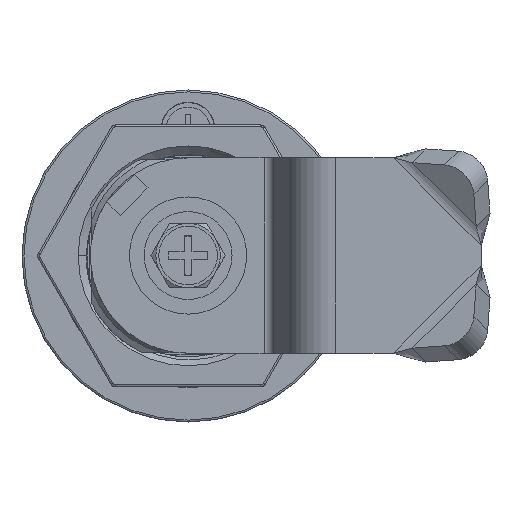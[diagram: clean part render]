
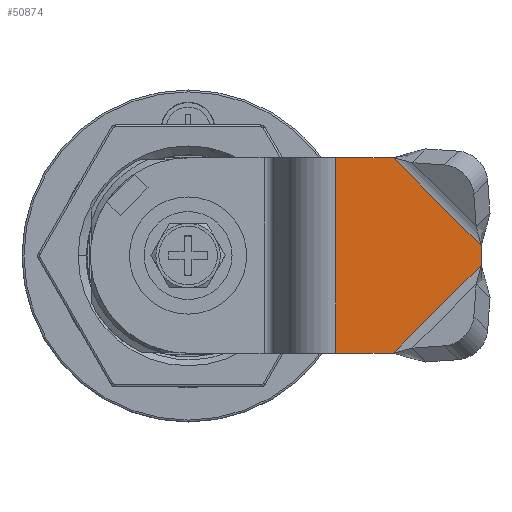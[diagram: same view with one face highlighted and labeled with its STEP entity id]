
A CAD part, top view. The second image highlights one B-rep face of the part: STEP entity #50874.
In plain terms, the highlighted planar face has unit normal (0, 0, 1) as drawn and (0, 1, 0) by its records, which use the part's own axes.
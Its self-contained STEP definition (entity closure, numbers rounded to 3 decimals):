
#50056=DIRECTION('',(-1.,0.,0.));
#50057=VECTOR('',#50056,5.896);
#50058=CARTESIAN_POINT('',(12.5,13.,10.));
#50059=LINE('',#50058,#50057);
#50105=DIRECTION('',(-0.707,0.,0.707));
#50106=VECTOR('',#50105,12.728);
#50107=CARTESIAN_POINT('',(21.5,13.,1.));
#50108=LINE('',#50107,#50106);
#50109=DIRECTION('',(0.,0.,-1.));
#50110=VECTOR('',#50109,20.);
#50111=CARTESIAN_POINT('',(6.604,13.,10.));
#50112=LINE('',#50111,#50110);
#50113=DIRECTION('',(-0.707,0.,-0.707));
#50114=VECTOR('',#50113,12.728);
#50115=CARTESIAN_POINT('',(21.5,13.,-1.));
#50116=LINE('',#50115,#50114);
#50117=DIRECTION('',(0.,0.,1.));
#50118=VECTOR('',#50117,2.);
#50119=CARTESIAN_POINT('',(21.5,13.,-1.));
#50120=LINE('',#50119,#50118);
#50125=DIRECTION('',(-1.,0.,0.));
#50126=VECTOR('',#50125,5.896);
#50127=CARTESIAN_POINT('',(12.5,13.,-10.));
#50128=LINE('',#50127,#50126);
#50314=CARTESIAN_POINT('',(6.604,13.,10.));
#50315=CARTESIAN_POINT('',(6.604,13.,-10.));
#50316=VERTEX_POINT('',#50314);
#50317=VERTEX_POINT('',#50315);
#50354=CARTESIAN_POINT('',(12.5,13.,-10.));
#50355=VERTEX_POINT('',#50354);
#50363=CARTESIAN_POINT('',(21.5,13.,-1.));
#50364=VERTEX_POINT('',#50363);
#50369=CARTESIAN_POINT('',(12.5,13.,10.));
#50370=VERTEX_POINT('',#50369);
#50373=CARTESIAN_POINT('',(21.5,13.,1.));
#50374=VERTEX_POINT('',#50373);
#50858=CARTESIAN_POINT('',(21.5,13.,-10.));
#50859=DIRECTION('',(0.,1.,0.));
#50860=DIRECTION('',(-1.,0.,0.));
#50861=AXIS2_PLACEMENT_3D('',#50858,#50859,#50860);
#50862=PLANE('',#50861);
#50863=ORIENTED_EDGE('',*,*,#50851,.T.);
#50864=ORIENTED_EDGE('',*,*,#50756,.T.);
#50865=ORIENTED_EDGE('',*,*,#50667,.T.);
#50867=ORIENTED_EDGE('',*,*,#50866,.F.);
#50869=ORIENTED_EDGE('',*,*,#50868,.F.);
#50871=ORIENTED_EDGE('',*,*,#50870,.T.);
#50872=EDGE_LOOP('',(#50863,#50864,#50865,#50867,#50869,#50871));
#50873=FACE_OUTER_BOUND('',#50872,.F.);
#50874=ADVANCED_FACE('',(#50873),#50862,.T.);
#50667=EDGE_CURVE('',#50316,#50317,#50112,.T.);
#50756=EDGE_CURVE('',#50370,#50316,#50059,.T.);
#50851=EDGE_CURVE('',#50374,#50370,#50108,.T.);
#50866=EDGE_CURVE('',#50355,#50317,#50128,.T.);
#50868=EDGE_CURVE('',#50364,#50355,#50116,.T.);
#50870=EDGE_CURVE('',#50364,#50374,#50120,.T.);
